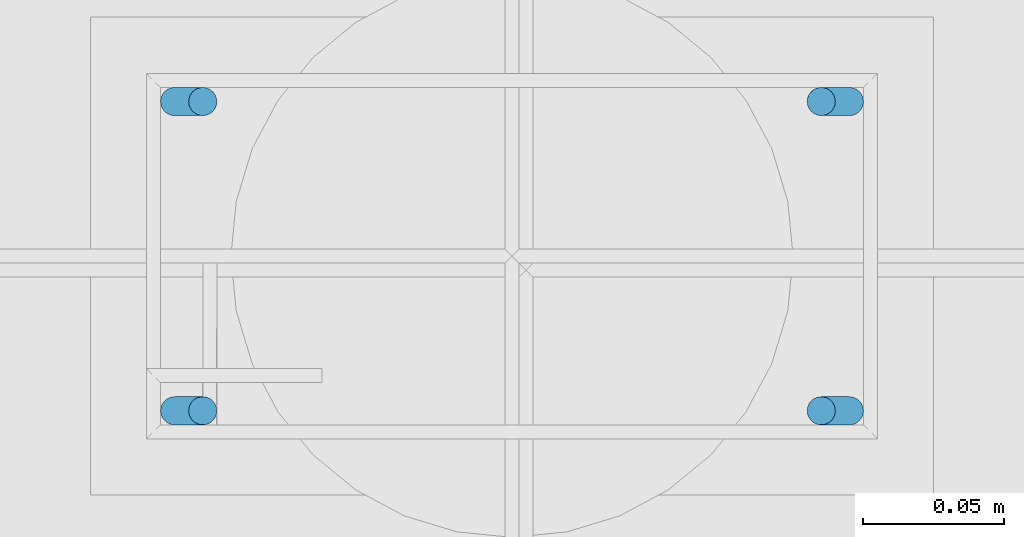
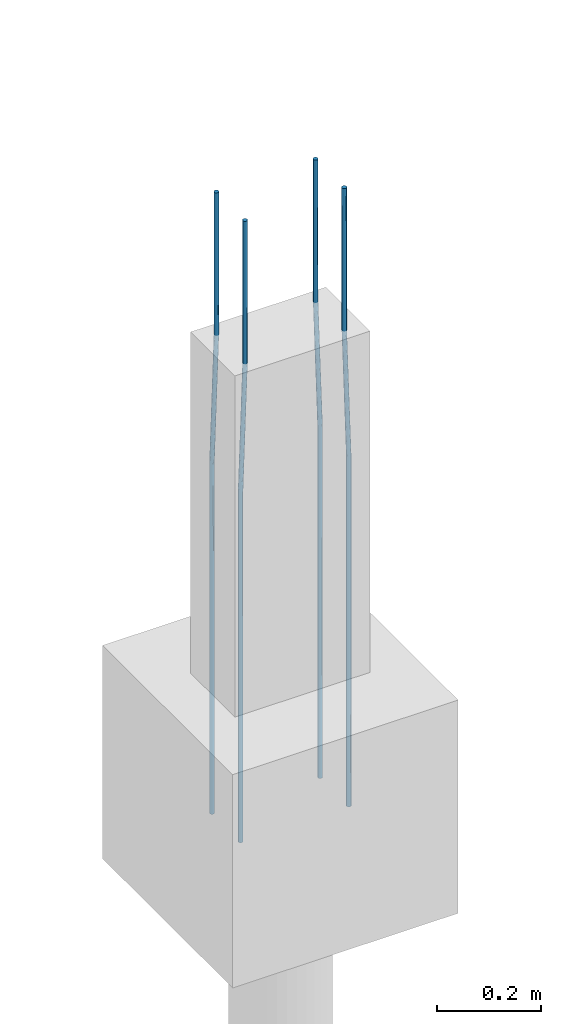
# One storey, part 41 of 119: 4 reinforcing bars.
"""IFC4 building model written with IfcOpenShell, lengths in centimetres."""

from ifc_helpers import new_model, entity, si_unit, derived_unit, frame, origin_with_axes, place, context, project, spatial, element, save


model = new_model("IFC4")

# Units and contexts
model_context = context("Model", 3, precision=1e-05, world=origin_with_axes(), identifier="Body")
ifc_project = project(units=[si_unit("LENGTHUNIT", "METRE", prefix="CENTI"), si_unit("VOLUMEUNIT", "CUBIC_METRE"), si_unit("AREAUNIT", "SQUARE_METRE"), si_unit("POWERUNIT", "WATT"), si_unit("LUMINOUSFLUXUNIT", "LUMEN"), si_unit("ELECTRICCURRENTUNIT", "AMPERE"), si_unit("PRESSUREUNIT", "PASCAL", prefix="KILO"), si_unit("MASSUNIT", "GRAM", prefix="KILO"), si_unit("PLANEANGLEUNIT", "RADIAN"), derived_unit("VOLUMETRICFLOWRATEUNIT", [(si_unit("LENGTHUNIT", "METRE"), 3), (si_unit("TIMEUNIT", "SECOND"), -1)])], contexts=[model_context])

# Site, building, storey
site_placement = place(None, frame((-4000.0, 0.0, 0.0), z_axis=(0.0, 0.0, 1.0), x_axis=(1.0, 0.0, 0.0)))
site = spatial("IfcSite", under=ifc_project, at=site_placement, Name="PADRÃO")
building_placement = place(site_placement, frame((0.0, 0.0, -14.0)))
building = spatial("IfcBuilding", under=site, at=building_placement, Name="CRECHE PRÉ-ESCOLA TIPO 2")
storey_placement = place(building_placement, origin_with_axes())
storey = spatial("IfcBuildingStorey", under=building, at=storey_placement, Name="FUNDAÇÃO", CompositionType="ELEMENT", Elevation=-14.0)

# Reinforcing bars
reinforcing_bar_1_placement = place(storey_placement, frame((3384.0, 1809.52, 33.3573001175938), z_axis=(0.0, 0.0, 1.0), x_axis=(1.0, 0.0, 0.0)))
element("IfcReinforcingBar", 1, at=reinforcing_bar_1_placement, inside=storey, Name="P97 - Longitudinal", BarLength=0.0, CrossSectionArea=7.853981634e-05, NominalDiameter=1.0, PredefinedType="MAIN", context=model_context, shape_type="AdvancedSweptSolid", body=[
    entity("IfcSweptDiskSolid", entity("IfcCompositeCurve", [entity("IfcCompositeCurveSegment", "CONTINUOUS", True, entity("IfcPolyline", [entity("IfcCartesianPoint", [0.5, 0.0, -145.357300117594]), entity("IfcCartesianPoint", [0.5, 0.0, -63.3573001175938])])), entity("IfcCompositeCurveSegment", "CONTINUOUS", True, entity("IfcPolyline", [entity("IfcCartesianPoint", [0.5, 0.0, -63.3573001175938]), entity("IfcCartesianPoint", [-0.5, 0.0, -33.3573001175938])])), entity("IfcCompositeCurveSegment", "CONTINUOUS", True, entity("IfcPolyline", [entity("IfcCartesianPoint", [-0.5, 0.0, -33.3573001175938]), entity("IfcCartesianPoint", [-0.5, 0.0, 0.0])]))], False), 0.5),
])
for number, where, z_axis, x_axis, name in (
    (2, (3361.0, 1809.52, 33.3573001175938), (0.0, 0.0, 1.0), (1.0, 0.0, 0.0), "P97 - Longitudinal"),
    (3, (3361.0, 1820.52, 33.3573001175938), (0.0, 0.0, 1.0), (1.0, 0.0, 0.0), "P97 - Longitudinal"),
):
    element("IfcReinforcingBar", number, at=place(storey_placement, frame(where, z_axis=z_axis, x_axis=x_axis)), inside=storey, Name=name, BarLength=0.0, CrossSectionArea=7.853981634e-05, NominalDiameter=1.0, PredefinedType="MAIN", context=model_context, shape_type="AdvancedSweptSolid", body=[
        entity("IfcSweptDiskSolid", entity("IfcCompositeCurve", [entity("IfcCompositeCurveSegment", "CONTINUOUS", True, entity("IfcPolyline", [entity("IfcCartesianPoint", [-0.5, 0.0, -145.357300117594]), entity("IfcCartesianPoint", [-0.5, 0.0, -63.3573001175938])])), entity("IfcCompositeCurveSegment", "CONTINUOUS", True, entity("IfcPolyline", [entity("IfcCartesianPoint", [-0.5, 0.0, -63.3573001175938]), entity("IfcCartesianPoint", [0.5, 0.0, -33.3573001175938])])), entity("IfcCompositeCurveSegment", "CONTINUOUS", True, entity("IfcPolyline", [entity("IfcCartesianPoint", [0.5, 0.0, -33.3573001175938]), entity("IfcCartesianPoint", [0.5, 0.0, 0.0])]))], False), 0.5),
    ])
reinforcing_bar_2_placement = place(storey_placement, frame((3384.0, 1820.52, 33.3573001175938), z_axis=(0.0, 0.0, 1.0), x_axis=(1.0, 0.0, 0.0)))
element("IfcReinforcingBar", 4, at=reinforcing_bar_2_placement, inside=storey, Name="P97 - Longitudinal", BarLength=0.0, CrossSectionArea=7.853981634e-05, NominalDiameter=1.0, PredefinedType="MAIN", context=model_context, shape_type="AdvancedSweptSolid", body=[
    entity("IfcSweptDiskSolid", entity("IfcCompositeCurve", [entity("IfcCompositeCurveSegment", "CONTINUOUS", True, entity("IfcPolyline", [entity("IfcCartesianPoint", [0.5, 0.0, -145.357300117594]), entity("IfcCartesianPoint", [0.5, 0.0, -63.3573001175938])])), entity("IfcCompositeCurveSegment", "CONTINUOUS", True, entity("IfcPolyline", [entity("IfcCartesianPoint", [0.5, 0.0, -63.3573001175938]), entity("IfcCartesianPoint", [-0.5, 0.0, -33.3573001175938])])), entity("IfcCompositeCurveSegment", "CONTINUOUS", True, entity("IfcPolyline", [entity("IfcCartesianPoint", [-0.5, 0.0, -33.3573001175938]), entity("IfcCartesianPoint", [-0.5, 0.0, 0.0])]))], False), 0.5),
])

save(model, "model.ifc")
